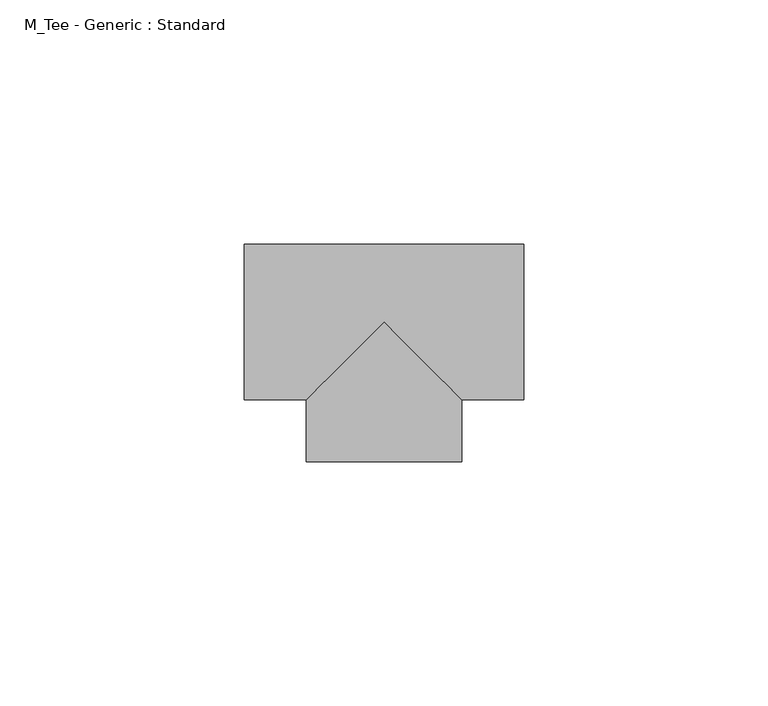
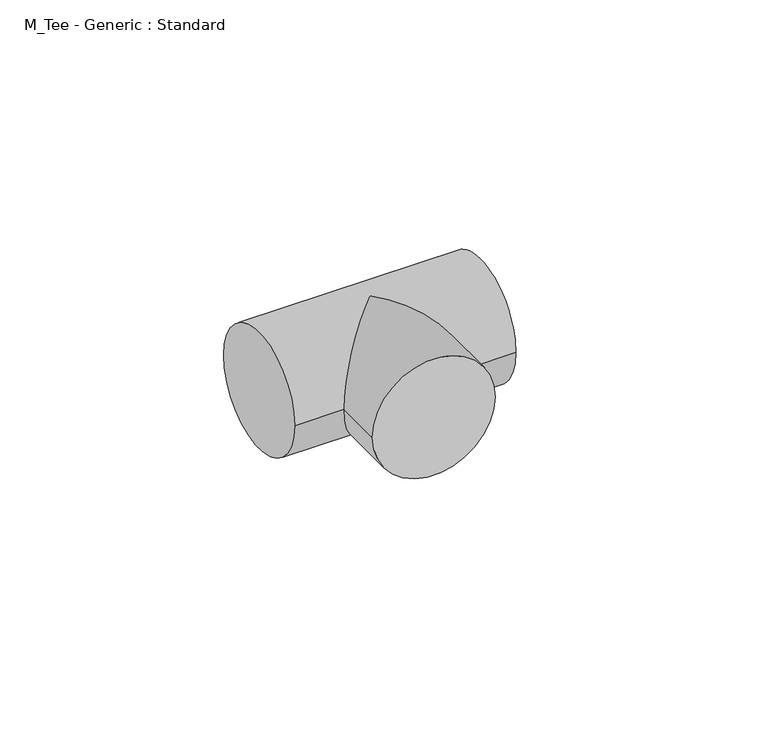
"""IFC4 building model written with IfcOpenShell, lengths in millimetres: pipe fitting geometry, M_Tee - Generic : Standard."""

from ifc_helpers import new_model, si_unit, frame, origin, place, context, project, spatial, circle_curve, ellipse_curve, source, transform, mapped, element, save
from ifc_brep_helpers import plane_surface, cylinder_surface, advanced_brep


def m_tee_generic_standard_3138dd84(model_context):
    return source(origin(), model_context, "Body", "AdvancedBrep", [
        advanced_brep(
        [(-28.575, -15.875, 0.0), (-28.575, 15.875, 0.0), (28.575, -15.875, 0.0), (28.575, 15.875, 0.0), (-15.875, -15.875, 0.0), (0.0, 0.0, 15.875), (15.875, -15.875, 0.0), (0.0, 0.0, -15.875), (-15.875, -28.575, 0.0), (15.875, -28.575, 0.0)],
        [
            (0, 1, circle_curve(frame((-28.575, 0.0, 0.0), z_axis=(-1.0, 0.0, 0.0), x_axis=(0.0, 1.0, 0.0)), 15.875)),
            (1, 0, circle_curve(frame((-28.575, 0.0, 0.0), z_axis=(-1.0, 0.0, 0.0), x_axis=(0.0, 1.0, 0.0)), 15.875)),
            (2, 3, circle_curve(frame((28.575, 0.0, 0.0), z_axis=(1.0, 0.0, 0.0), x_axis=(0.0, 1.0, 0.0)), 15.875)),
            (3, 2, circle_curve(frame((28.575, 0.0, 0.0), z_axis=(1.0, 0.0, 0.0), x_axis=(0.0, 1.0, 0.0)), 15.875)),
            (0, 4),
            (4, 5, ellipse_curve(frame((0.0, 0.0, 0.0), z_axis=(-0.707106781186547, 0.7071067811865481, 0.0), x_axis=(-0.707106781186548, -0.707106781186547, 0.0)), 22.4506403, 15.875)),
            (5, 6, ellipse_curve(frame((0.0, 0.0, 0.0), z_axis=(0.707106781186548, 0.7071067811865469, 0.0), x_axis=(-0.707106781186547, 0.707106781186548, 0.0)), 22.4506403, 15.875)),
            (6, 2),
            (3, 1),
            (6, 7, ellipse_curve(frame((0.0, 0.0, 0.0), z_axis=(0.707106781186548, 0.7071067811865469, 0.0), x_axis=(-0.707106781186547, 0.707106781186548, 0.0)), 22.4506403, 15.875)),
            (7, 4, ellipse_curve(frame((0.0, 0.0, 0.0), z_axis=(-0.707106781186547, 0.7071067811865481, 0.0), x_axis=(-0.707106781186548, -0.707106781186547, 0.0)), 22.4506403, 15.875)),
            (8, 9, circle_curve(frame((0.0, -28.575, 0.0), z_axis=(0.0, -1.0, 0.0), x_axis=(1.0, 0.0, 0.0)), 15.875)),
            (9, 8, circle_curve(frame((0.0, -28.575, 0.0), z_axis=(0.0, -1.0, 0.0), x_axis=(1.0, 0.0, 0.0)), 15.875)),
            (9, 6),
            (4, 8),
        ],
        [
            plane_surface(frame((-28.575, 0.0, 0.0), z_axis=(-1.0, 0.0, 0.0), x_axis=(0.0, 0.0, 1.0))),
            plane_surface(frame((28.575, 0.0, 0.0), z_axis=(1.0, 0.0, 0.0), x_axis=(0.0, 0.0, 1.0))),
            cylinder_surface(frame((-28.575, 0.0, 0.0), z_axis=(-1.0, 0.0, 0.0), x_axis=(0.0, 1.0, 0.0)), 15.875),
            plane_surface(frame((0.0, -28.575, 0.0), z_axis=(0.0, -1.0, 0.0), x_axis=(0.0, 0.0, 1.0))),
            cylinder_surface(frame((0.0, 0.0, 0.0), z_axis=(0.0, 1.0, 0.0), x_axis=(1.0, 0.0, 0.0)), 15.875),
        ],
        [
            (0, [[1, 2]]),
            (1, [[3, 4]]),
            (2, [[-1, 5, 6, 7, 8, -4, 9]]),
            (2, [[-2, -9, -3, -8, 10, 11, -5]]),
            (3, [[12, 13]]),
            (4, [[-13, 14, -7, -6, 15]]),
            (4, [[-12, -15, -11, -10, -14]]),
        ],
    ),
    ])


if __name__ == "__main__":
    model = new_model("IFC4")
    model_context = context("Model", 3, world=origin())
    ifc_project = project(units=[si_unit("LENGTHUNIT", "METRE", prefix="MILLI")], contexts=[model_context])
    site = spatial("IfcSite", under=ifc_project)
    building = spatial("IfcBuilding", under=site)
    placement = place(None, origin())
    m_tee_generic_standard_shape = m_tee_generic_standard_3138dd84(model_context)
    element("IfcPipeFitting", 1, ObjectType="M_Tee - Generic : Standard", at=placement, inside=building, context=model_context, shape_type="MappedRepresentation", body=[
        mapped(m_tee_generic_standard_shape, transform((0.0, 0.0, 0.0), x_axis=(1.0, 0.0, 0.0), y_axis=(0.0, 1.0, 0.0), z_axis=(0.0, 0.0, 1.0))),
    ])
    save(model, "model.ifc")
